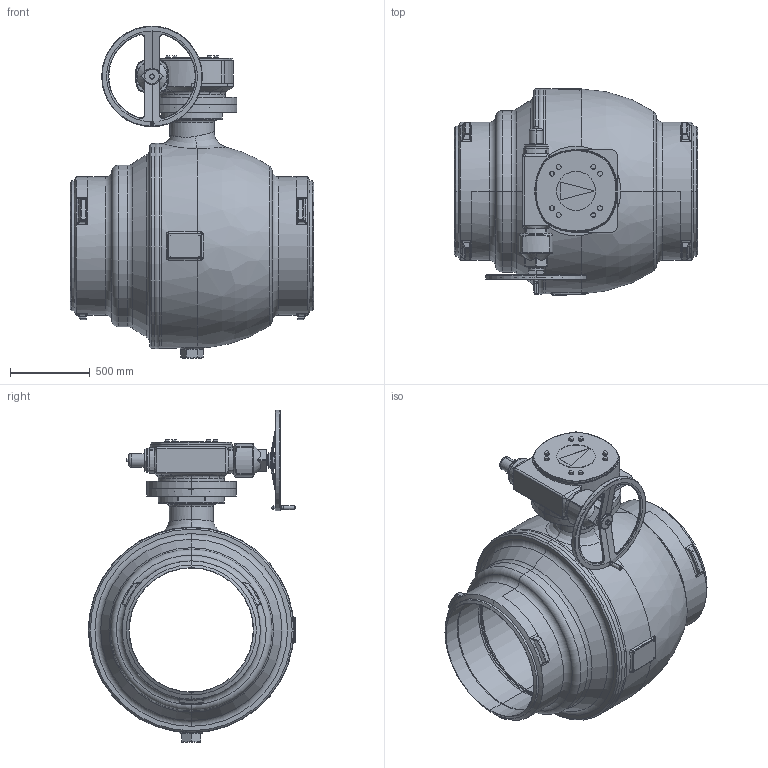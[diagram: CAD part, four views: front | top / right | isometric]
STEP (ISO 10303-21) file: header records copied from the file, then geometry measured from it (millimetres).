
FILE_DESCRIPTION((''),'2;1');
FILE_NAME('ASM0022_ASM','2016-04-29T',('schwaba'),('RAND'),'PRO/ENGINEER BY PARAMETRIC TECHNOLOGY CORPORATION, 2013410','PRO/ENGINEER BY PARAMETRIC TECHNOLOGY CORPORATION, 2013410','');
FILE_SCHEMA(('CONFIG_CONTROL_DESIGN'));
Length unit declared in the file: millimetre
Products named in the file (7): KHISL800VSL800P040MKK_SW0001; PRT0029; PRT0030; PRT0031; ASM0023_ASM; GS250_800_ASM; ASM0022_ASM
Assembly tree (6 placements, depth 4):
  ASM0022_ASM
    KHISL800VSL800P040MKK_SW0001
    GS250_800_ASM
      ASM0023_ASM
        PRT0029
        PRT0030
        PRT0031
Bounding box: 1524 x 1295.14 x 2076 mm (x, y, z)
Volume: 542974397.9 mm3; surface area: 24734916.2 mm2
Topology: 4 solids, 11 shells, 2729 faces, 6829 edges, 4241 vertices
Faces by surface type: plane 1213, cylinder 615, torus 331, bspline 302, cone 224, sphere 44
Entity records: 147613 total; most frequent: CARTESIAN_POINT 85602, ORIENTED_EDGE 13558, DIRECTION 12140, EDGE_CURVE 6779, AXIS2_PLACEMENT_3D 4970, VERTEX_POINT 4241, EDGE_LOOP 3004, FACE_OUTER_BOUND 2729
